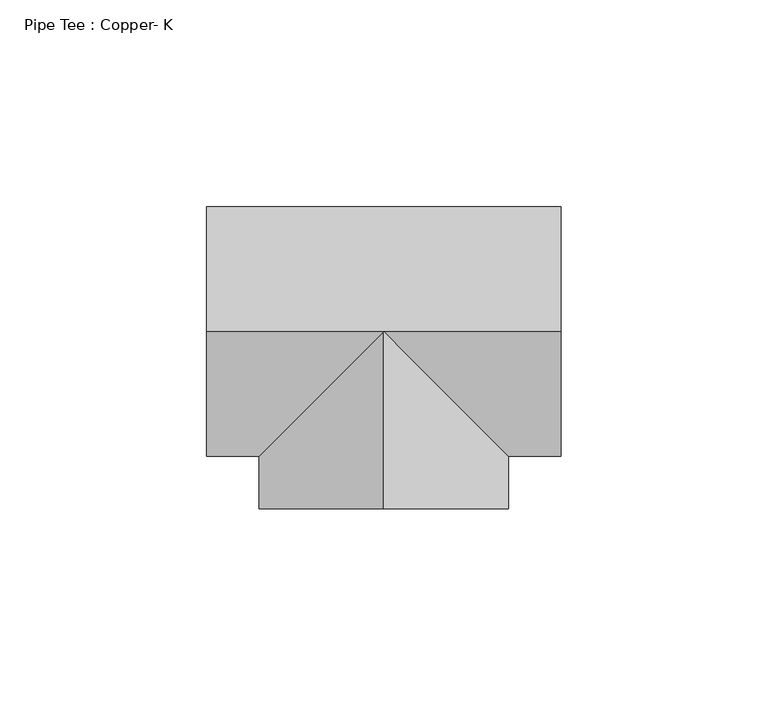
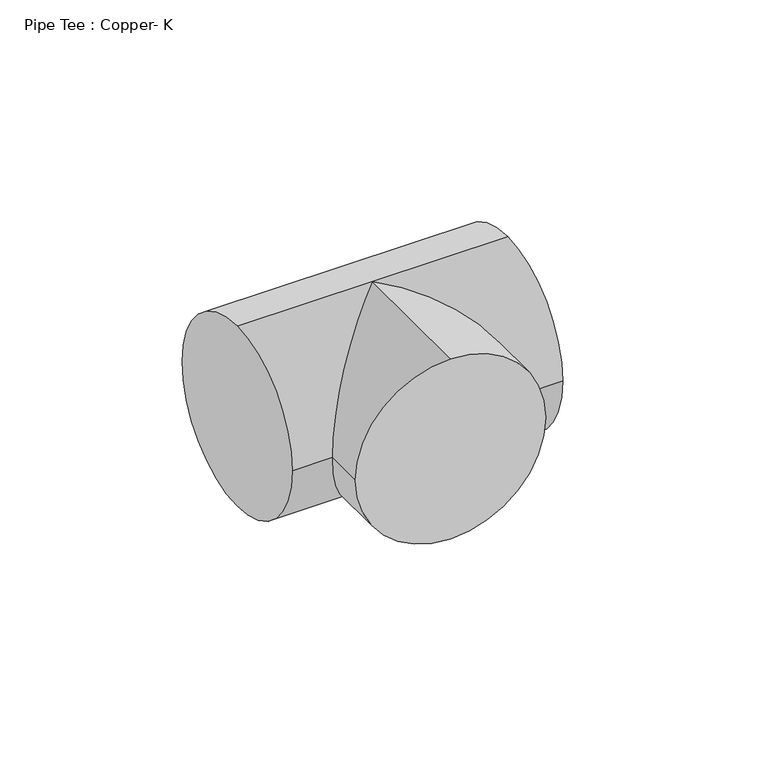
"""IFC4 building model written with IfcOpenShell, lengths in millimetres: pipe fitting geometry, Pipe Tee : Copper- K."""

from ifc_helpers import new_model, si_unit, frame, origin, place, context, project, spatial, circle_curve, ellipse_curve, source, transform, mapped, element, save
from ifc_brep_helpers import plane_surface, cylinder_surface, advanced_brep


def pipe_tee_copper_k_caf9fbed(model_context):
    return source(origin(), model_context, "Body", "AdvancedBrep", [
        advanced_brep(
        [(-42.8625, 0.0, 30.1625), (-42.8625, 30.1625, 0.0), (-42.8625, 0.0, -30.1625), (-42.8625, -30.1625, 0.0), (42.8625, 0.0, 30.1625), (42.8625, -30.1625, 0.0), (42.8625, 0.0, -30.1625), (42.8625, 30.1625, 0.0), (0.0, 0.0, 30.1625), (0.0, 0.0, -30.1625), (-30.1626653, -30.1625, 0.0), (30.1623347, -30.1625, 0.0), (-0.000235, -42.8625, 30.1625), (-30.162735, -42.8623347, 0.0), (-0.000235, -42.8625, -30.1625), (30.162265, -42.8626653, 0.0)],
        [
            (0, 1, circle_curve(frame((-42.8625, 0.0, 0.0), z_axis=(-1.0, 0.0, 0.0), x_axis=(0.0, 1.0, 0.0)), 30.1625)),
            (1, 2, circle_curve(frame((-42.8625, 0.0, 0.0), z_axis=(-1.0, 0.0, 0.0), x_axis=(0.0, 1.0, 0.0)), 30.1625)),
            (2, 3, circle_curve(frame((-42.8625, 0.0, 0.0), z_axis=(-1.0, 0.0, 0.0), x_axis=(0.0, 1.0, 0.0)), 30.1625)),
            (3, 0, circle_curve(frame((-42.8625, 0.0, 0.0), z_axis=(-1.0, 0.0, 0.0), x_axis=(0.0, 1.0, 0.0)), 30.1625)),
            (4, 5, circle_curve(frame((42.8625, 0.0, 0.0), z_axis=(1.0, 0.0, 0.0), x_axis=(0.0, 1.0, 0.0)), 30.1625)),
            (5, 6, circle_curve(frame((42.8625, 0.0, 0.0), z_axis=(1.0, 0.0, 0.0), x_axis=(0.0, 1.0, 0.0)), 30.1625)),
            (6, 7, circle_curve(frame((42.8625, 0.0, 0.0), z_axis=(1.0, 0.0, 0.0), x_axis=(0.0, 1.0, 0.0)), 30.1625)),
            (7, 4, circle_curve(frame((42.8625, 0.0, 0.0), z_axis=(1.0, 0.0, 0.0), x_axis=(0.0, 1.0, 0.0)), 30.1625)),
            (0, 8),
            (8, 4),
            (7, 1),
            (6, 9),
            (9, 2),
            (9, 10, ellipse_curve(frame((0.0, 0.0, 0.0), z_axis=(-0.7071048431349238, 0.7071087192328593, 0.0), x_axis=(-0.7071087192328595, -0.7071048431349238, 0.0)), 42.6563335, 30.1625)),
            (10, 3),
            (5, 11),
            (11, 9, ellipse_curve(frame((0.0, 0.0, 0.0), z_axis=(0.7071087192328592, 0.707104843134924, 0.0), x_axis=(-0.7071048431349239, 0.7071087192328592, 0.0)), 42.6560997, 30.1625)),
            (10, 8, ellipse_curve(frame((0.0, 0.0, 0.0), z_axis=(-0.7071048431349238, 0.7071087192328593, 0.0), x_axis=(-0.7071087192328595, -0.7071048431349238, 0.0)), 42.6563335, 30.1625)),
            (8, 11, ellipse_curve(frame((0.0, 0.0, 0.0), z_axis=(0.7071087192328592, 0.707104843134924, 0.0), x_axis=(-0.7071048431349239, 0.7071087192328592, 0.0)), 42.6560997, 30.1625)),
            (12, 13, circle_curve(frame((-0.000235, -42.8625, 0.0), z_axis=(-5.481630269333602e-06, -0.999999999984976, 0.0), x_axis=(0.999999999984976, -5.481630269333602e-06, 0.0)), 30.1625)),
            (13, 14, circle_curve(frame((-0.000235, -42.8625, 0.0), z_axis=(-5.481630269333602e-06, -0.999999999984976, 0.0), x_axis=(0.999999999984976, -5.481630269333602e-06, 0.0)), 30.1625)),
            (14, 15, circle_curve(frame((-0.000235, -42.8625, 0.0), z_axis=(-5.481630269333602e-06, -0.999999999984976, 0.0), x_axis=(0.999999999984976, -5.481630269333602e-06, 0.0)), 30.1625)),
            (15, 12, circle_curve(frame((-0.000235, -42.8625, 0.0), z_axis=(-5.481630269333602e-06, -0.999999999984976, 0.0), x_axis=(0.999999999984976, -5.481630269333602e-06, 0.0)), 30.1625)),
            (15, 11),
            (8, 12),
            (14, 9),
            (13, 10),
        ],
        [
            plane_surface(frame((-42.8625, 0.0, 0.0), z_axis=(-1.0, 0.0, 0.0), x_axis=(0.0, 0.0, 1.0))),
            plane_surface(frame((42.8625, 0.0, 0.0), z_axis=(1.0, 0.0, 0.0), x_axis=(0.0, 0.0, 1.0))),
            cylinder_surface(frame((-42.8625, 0.0, 0.0), z_axis=(-1.0, 0.0, 0.0), x_axis=(0.0, 1.0, 0.0)), 30.1625),
            plane_surface(frame((-0.000235, -42.8625, 0.0), z_axis=(-5.481630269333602e-06, -0.999999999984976, 0.0), x_axis=(0.0, 0.0, 1.0))),
            cylinder_surface(frame((0.0, 0.0, 0.0), z_axis=(5.481630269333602e-06, 0.999999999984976, 0.0), x_axis=(0.999999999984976, -5.481630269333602e-06, 0.0)), 30.1625),
        ],
        [
            (0, [[1, 2, 3, 4]]),
            (1, [[5, 6, 7, 8]]),
            (2, [[-1, 9, 10, -8, 11]]),
            (2, [[-2, -11, -7, 12, 13]]),
            (2, [[-3, -13, 14, 15]]),
            (2, [[-6, 16, 17, -12]]),
            (2, [[-4, -15, 18, -9]]),
            (2, [[-5, -10, 19, -16]]),
            (3, [[20, 21, 22, 23]]),
            (4, [[-23, 24, -19, 25]]),
            (4, [[-22, 26, -17, -24]]),
            (4, [[-21, 27, -14, -26]]),
            (4, [[-20, -25, -18, -27]]),
        ],
    ),
        advanced_brep(
        [(-42.8625, 0.0, 30.1625), (-42.8625, 30.1625, 0.0), (-42.8625, 0.0, -30.1625), (-42.8625, -30.1625, 0.0), (42.8625, 0.0, 30.1625), (42.8625, -30.1625, 0.0), (42.8625, 0.0, -30.1625), (42.8625, 30.1625, 0.0), (0.0, 0.0, 30.1625), (0.0, 0.0, -30.1625), (-30.1626653, -30.1625, 0.0), (30.1623347, -30.1625, 0.0), (-0.000235, -42.8625, 30.1625), (-30.162735, -42.8623347, 0.0), (-0.000235, -42.8625, -30.1625), (30.162265, -42.8626653, 0.0)],
        [
            (0, 1, circle_curve(frame((-42.8625, 0.0, 0.0), z_axis=(-1.0, 0.0, 0.0), x_axis=(0.0, 1.0, 0.0)), 30.1625)),
            (1, 2, circle_curve(frame((-42.8625, 0.0, 0.0), z_axis=(-1.0, 0.0, 0.0), x_axis=(0.0, 1.0, 0.0)), 30.1625)),
            (2, 3, circle_curve(frame((-42.8625, 0.0, 0.0), z_axis=(-1.0, 0.0, 0.0), x_axis=(0.0, 1.0, 0.0)), 30.1625)),
            (3, 0, circle_curve(frame((-42.8625, 0.0, 0.0), z_axis=(-1.0, 0.0, 0.0), x_axis=(0.0, 1.0, 0.0)), 30.1625)),
            (4, 5, circle_curve(frame((42.8625, 0.0, 0.0), z_axis=(1.0, 0.0, 0.0), x_axis=(0.0, 1.0, 0.0)), 30.1625)),
            (5, 6, circle_curve(frame((42.8625, 0.0, 0.0), z_axis=(1.0, 0.0, 0.0), x_axis=(0.0, 1.0, 0.0)), 30.1625)),
            (6, 7, circle_curve(frame((42.8625, 0.0, 0.0), z_axis=(1.0, 0.0, 0.0), x_axis=(0.0, 1.0, 0.0)), 30.1625)),
            (7, 4, circle_curve(frame((42.8625, 0.0, 0.0), z_axis=(1.0, 0.0, 0.0), x_axis=(0.0, 1.0, 0.0)), 30.1625)),
            (0, 8),
            (8, 4),
            (7, 1),
            (6, 9),
            (9, 2),
            (9, 10, ellipse_curve(frame((0.0, 0.0, 0.0), z_axis=(-0.7071048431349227, 0.7071087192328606, 0.0), x_axis=(-0.7071087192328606, -0.7071048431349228, 0.0)), 42.6563335, 30.1625)),
            (10, 3),
            (5, 11),
            (11, 9, ellipse_curve(frame((0.0, 0.0, 0.0), z_axis=(0.7071087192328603, 0.7071048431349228, 0.0), x_axis=(-0.7071048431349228, 0.7071087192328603, 0.0)), 42.6560997, 30.1625)),
            (10, 8, ellipse_curve(frame((0.0, 0.0, 0.0), z_axis=(-0.7071048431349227, 0.7071087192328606, 0.0), x_axis=(-0.7071087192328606, -0.7071048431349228, 0.0)), 42.6563335, 30.1625)),
            (8, 11, ellipse_curve(frame((0.0, 0.0, 0.0), z_axis=(0.7071087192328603, 0.7071048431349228, 0.0), x_axis=(-0.7071048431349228, 0.7071087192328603, 0.0)), 42.6560997, 30.1625)),
            (12, 13, circle_curve(frame((-0.000235, -42.8625, 0.0), z_axis=(-5.481630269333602e-06, -0.999999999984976, 0.0), x_axis=(0.999999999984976, -5.481630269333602e-06, 0.0)), 30.1625)),
            (13, 14, circle_curve(frame((-0.000235, -42.8625, 0.0), z_axis=(-5.481630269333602e-06, -0.999999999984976, 0.0), x_axis=(0.999999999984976, -5.481630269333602e-06, 0.0)), 30.1625)),
            (14, 15, circle_curve(frame((-0.000235, -42.8625, 0.0), z_axis=(-5.481630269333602e-06, -0.999999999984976, 0.0), x_axis=(0.999999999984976, -5.481630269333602e-06, 0.0)), 30.1625)),
            (15, 12, circle_curve(frame((-0.000235, -42.8625, 0.0), z_axis=(-5.481630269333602e-06, -0.999999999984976, 0.0), x_axis=(0.999999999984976, -5.481630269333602e-06, 0.0)), 30.1625)),
            (15, 11),
            (8, 12),
            (14, 9),
            (13, 10),
        ],
        [
            plane_surface(frame((-42.8625, 0.0, 0.0), z_axis=(-1.0, 0.0, 0.0), x_axis=(0.0, 0.0, 1.0))),
            plane_surface(frame((42.8625, 0.0, 0.0), z_axis=(1.0, 0.0, 0.0), x_axis=(0.0, 0.0, 1.0))),
            cylinder_surface(frame((-42.8625, 0.0, 0.0), z_axis=(-1.0, 0.0, 0.0), x_axis=(0.0, 1.0, 0.0)), 30.1625),
            plane_surface(frame((-0.000235, -42.8625, 0.0), z_axis=(-5.481630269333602e-06, -0.999999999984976, 0.0), x_axis=(0.0, 0.0, 1.0))),
            cylinder_surface(frame((0.0, 0.0, 0.0), z_axis=(5.481630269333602e-06, 0.999999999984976, 0.0), x_axis=(0.999999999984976, -5.481630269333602e-06, 0.0)), 30.1625),
        ],
        [
            (0, [[1, 2, 3, 4]]),
            (1, [[5, 6, 7, 8]]),
            (2, [[-1, 9, 10, -8, 11]]),
            (2, [[-2, -11, -7, 12, 13]]),
            (2, [[-3, -13, 14, 15]]),
            (2, [[-6, 16, 17, -12]]),
            (2, [[-4, -15, 18, -9]]),
            (2, [[-5, -10, 19, -16]]),
            (3, [[20, 21, 22, 23]]),
            (4, [[-23, 24, -19, 25]]),
            (4, [[-22, 26, -17, -24]]),
            (4, [[-21, 27, -14, -26]]),
            (4, [[-20, -25, -18, -27]]),
        ],
    ),
    ])


if __name__ == "__main__":
    model = new_model("IFC4")
    model_context = context("Model", 3, world=origin())
    ifc_project = project(units=[si_unit("LENGTHUNIT", "METRE", prefix="MILLI")], contexts=[model_context])
    site = spatial("IfcSite", under=ifc_project)
    building = spatial("IfcBuilding", under=site)
    placement = place(None, origin())
    pipe_tee_copper_k_shape = pipe_tee_copper_k_caf9fbed(model_context)
    element("IfcPipeFitting", 1, ObjectType="Pipe Tee : Copper- K", at=placement, inside=building, context=model_context, shape_type="MappedRepresentation", body=[
        mapped(pipe_tee_copper_k_shape, transform((0.0, 0.0, 0.0), x_axis=(1.0, 0.0, 0.0), y_axis=(0.0, 1.0, 0.0), z_axis=(0.0, 0.0, 1.0))),
    ])
    save(model, "model.ifc")
